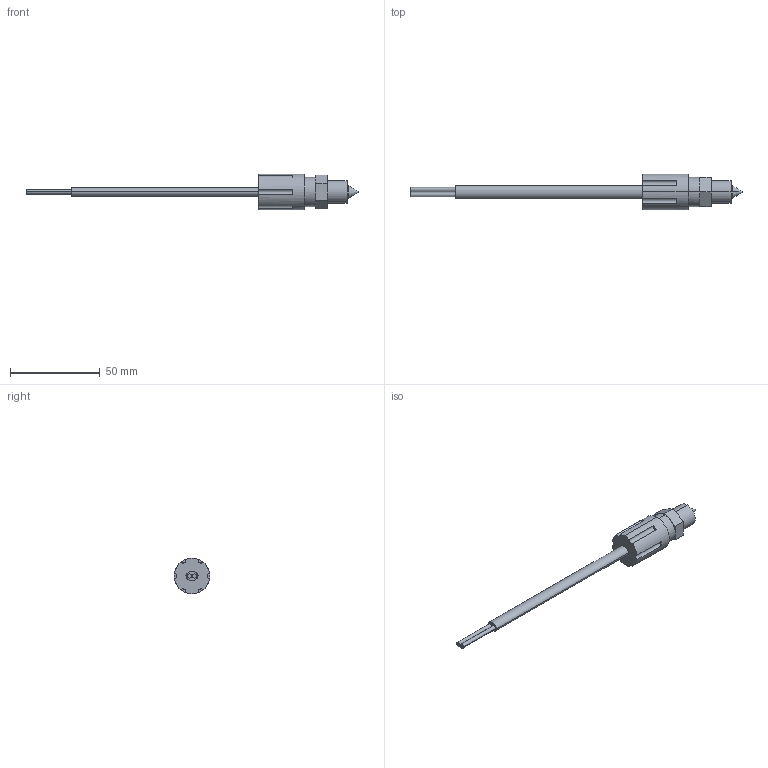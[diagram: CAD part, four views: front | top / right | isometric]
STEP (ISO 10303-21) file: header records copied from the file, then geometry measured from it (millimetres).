
FILE_DESCRIPTION (( 'STEP AP214' ), '1' );
FILE_NAME ('Fitting Leak Detect.STEP', '2012-09-21T17:16:37', ( '' ), ( '' ), 'SwSTEP 2.0', 'SolidWorks 2012', '' );
FILE_SCHEMA (( 'AUTOMOTIVE_DESIGN' ));
Length unit declared in the file: inch
Products named in the file (1): Fitting Leak Detect
Bounding box: 185.08 x 19.81 x 19.81 mm (x, y, z)
Volume: 14769.7 mm3; surface area: 5860.8 mm2
Topology: 1 solids, 1 shells, 54 faces, 126 edges, 80 vertices
Faces by surface type: plane 30, cylinder 20, bspline 2, cone 2
Entity records: 2056 total; most frequent: CARTESIAN_POINT 343, DIRECTION 292, ORIENTED_EDGE 252, EDGE_CURVE 126, AXIS2_PLACEMENT_3D 117, VERTEX_POINT 80, CIRCLE 64, EDGE_LOOP 60
